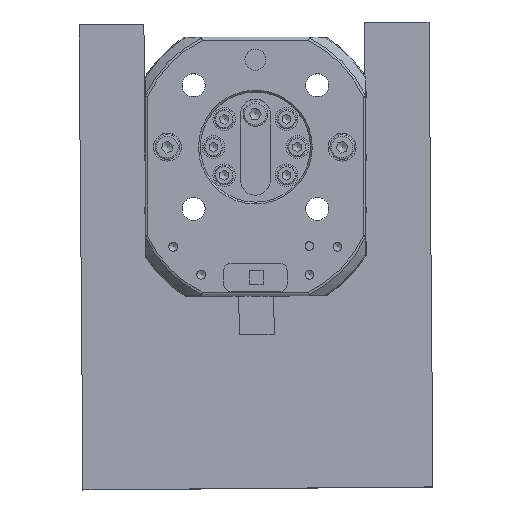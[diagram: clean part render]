
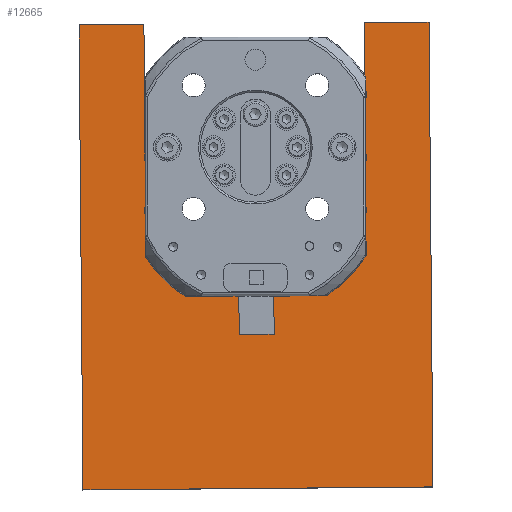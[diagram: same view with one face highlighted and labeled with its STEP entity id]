
A CAD part, top view. The second image highlights one B-rep face of the part: STEP entity #12665.
In plain terms, the highlighted planar face has unit normal (0, 0, 1).
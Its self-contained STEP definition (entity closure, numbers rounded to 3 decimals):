
#1500=LINE('',#26091,#2340);
#1504=LINE('',#26099,#2344);
#1507=LINE('',#26104,#2347);
#1508=LINE('',#26108,#2348);
#1512=LINE('',#26116,#2352);
#1515=LINE('',#26122,#2355);
#1519=LINE('',#26137,#2359);
#1522=LINE('',#26143,#2362);
#1525=LINE('',#26149,#2365);
#1528=LINE('',#26154,#2368);
#1530=LINE('',#26159,#2370);
#1531=LINE('',#26160,#2371);
#2340=VECTOR('',#16474,10.);
#2344=VECTOR('',#16478,10.);
#2347=VECTOR('',#16483,10.);
#2348=VECTOR('',#16486,10.);
#2352=VECTOR('',#16492,10.);
#2355=VECTOR('',#16497,10.);
#2359=VECTOR('',#16515,10.);
#2362=VECTOR('',#16520,10.);
#2365=VECTOR('',#16525,10.);
#2368=VECTOR('',#16530,10.);
#2370=VECTOR('',#16536,10.);
#2371=VECTOR('',#16537,10.);
#3329=FACE_OUTER_BOUND('',#4122,.T.);
#4122=EDGE_LOOP('',(#11035,#11036,#11037,#11038,#11039,#11040,#11041,#11042,
#11043,#11044,#11045,#11046,#11047,#11048));
#4600=CIRCLE('',#13698,37.5);
#4602=CIRCLE('',#13701,37.5);
#5775=VERTEX_POINT('',#26088);
#5776=VERTEX_POINT('',#26090);
#5779=VERTEX_POINT('',#26096);
#5780=VERTEX_POINT('',#26098);
#5781=VERTEX_POINT('',#26102);
#5782=VERTEX_POINT('',#26106);
#5783=VERTEX_POINT('',#26107);
#5786=VERTEX_POINT('',#26115);
#5788=VERTEX_POINT('',#26121);
#5790=VERTEX_POINT('',#26130);
#5792=VERTEX_POINT('',#26136);
#5794=VERTEX_POINT('',#26142);
#5796=VERTEX_POINT('',#26148);
#5798=VERTEX_POINT('',#26158);
#7516=EDGE_CURVE('',#5775,#5776,#1500,.T.);
#7520=EDGE_CURVE('',#5779,#5780,#1504,.T.);
#7523=EDGE_CURVE('',#5775,#5781,#1507,.T.);
#7524=EDGE_CURVE('',#5782,#5783,#1508,.T.);
#7528=EDGE_CURVE('',#5786,#5782,#1512,.T.);
#7531=EDGE_CURVE('',#5788,#5786,#1515,.T.);
#7534=EDGE_CURVE('',#5776,#5788,#4600,.T.);
#7536=EDGE_CURVE('',#5790,#5779,#4602,.T.);
#7539=EDGE_CURVE('',#5792,#5790,#1519,.T.);
#7542=EDGE_CURVE('',#5794,#5792,#1522,.T.);
#7545=EDGE_CURVE('',#5796,#5794,#1525,.T.);
#7548=EDGE_CURVE('',#5783,#5796,#1528,.T.);
#7550=EDGE_CURVE('',#5798,#5780,#1530,.T.);
#7551=EDGE_CURVE('',#5781,#5798,#1531,.T.);
#11035=ORIENTED_EDGE('',*,*,#7550,.T.);
#11036=ORIENTED_EDGE('',*,*,#7520,.F.);
#11037=ORIENTED_EDGE('',*,*,#7536,.F.);
#11038=ORIENTED_EDGE('',*,*,#7539,.F.);
#11039=ORIENTED_EDGE('',*,*,#7542,.F.);
#11040=ORIENTED_EDGE('',*,*,#7545,.F.);
#11041=ORIENTED_EDGE('',*,*,#7548,.F.);
#11042=ORIENTED_EDGE('',*,*,#7524,.F.);
#11043=ORIENTED_EDGE('',*,*,#7528,.F.);
#11044=ORIENTED_EDGE('',*,*,#7531,.F.);
#11045=ORIENTED_EDGE('',*,*,#7534,.F.);
#11046=ORIENTED_EDGE('',*,*,#7516,.F.);
#11047=ORIENTED_EDGE('',*,*,#7523,.T.);
#11048=ORIENTED_EDGE('',*,*,#7551,.T.);
#11364=PLANE('',#13708);
#12665=ADVANCED_FACE('',(#3329),#11364,.T.);
#13698=AXIS2_PLACEMENT_3D('',#26127,#16502,#16503);
#13701=AXIS2_PLACEMENT_3D('',#26131,#16508,#16509);
#13708=AXIS2_PLACEMENT_3D('',#26157,#16534,#16535);
#16474=DIRECTION('',(1.,0.008,0.));
#16478=DIRECTION('',(1.,0.008,0.));
#16483=DIRECTION('',(0.008,-1.,0.));
#16486=DIRECTION('',(0.008,-1.,0.));
#16492=DIRECTION('',(1.,0.008,0.));
#16497=DIRECTION('',(-0.008,1.,0.));
#16502=DIRECTION('center_axis',(0.,0.,1.));
#16503=DIRECTION('ref_axis',(-0.845,0.535,0.));
#16508=DIRECTION('center_axis',(0.,0.,1.));
#16509=DIRECTION('ref_axis',(0.535,0.845,0.));
#16515=DIRECTION('',(0.008,-1.,0.));
#16520=DIRECTION('',(1.,0.008,0.));
#16525=DIRECTION('',(-0.008,1.,0.));
#16530=DIRECTION('',(-1.,-0.008,0.));
#16534=DIRECTION('center_axis',(0.,0.,1.));
#16535=DIRECTION('ref_axis',(1.,0.008,0.));
#16536=DIRECTION('',(-0.008,1.,0.));
#16537=DIRECTION('',(-1.,-0.008,0.));
#26088=CARTESIAN_POINT('',(5.267,-42.456,0.));
#26090=CARTESIAN_POINT('',(20.614,-42.326,0.));
#26091=CARTESIAN_POINT('',(-20.079,-42.672,0.));
#26096=CARTESIAN_POINT('',(-20.079,-42.672,0.));
#26098=CARTESIAN_POINT('',(-4.732,-42.541,0.));
#26099=CARTESIAN_POINT('',(-20.079,-42.672,0.));
#26102=CARTESIAN_POINT('',(5.361,-53.456,0.));
#26104=CARTESIAN_POINT('',(5.361,-53.456,0.));
#26106=CARTESIAN_POINT('',(49.665,35.818,0.));
#26107=CARTESIAN_POINT('',(50.794,-97.178,0.));
#26108=CARTESIAN_POINT('',(49.665,35.818,0.));
#26115=CARTESIAN_POINT('',(31.105,35.66,0.));
#26116=CARTESIAN_POINT('',(31.105,35.66,0.));
#26121=CARTESIAN_POINT('',(31.672,-31.079,0.));
#26122=CARTESIAN_POINT('',(31.672,-31.079,0.));
#26127=CARTESIAN_POINT('Origin',(0.,-11.,0.));
#26130=CARTESIAN_POINT('',(-31.326,-31.614,0.));
#26131=CARTESIAN_POINT('Origin',(0.,-11.,0.));
#26136=CARTESIAN_POINT('',(-31.893,35.125,0.));
#26137=CARTESIAN_POINT('',(-31.893,35.125,0.));
#26142=CARTESIAN_POINT('',(-50.453,34.967,0.));
#26143=CARTESIAN_POINT('',(-50.453,34.967,0.));
#26148=CARTESIAN_POINT('',(-49.323,-98.028,0.));
#26149=CARTESIAN_POINT('',(-49.323,-98.028,0.));
#26154=CARTESIAN_POINT('',(50.794,-97.178,0.));
#26157=CARTESIAN_POINT('Origin',(0.176,-31.736,0.));
#26158=CARTESIAN_POINT('',(-4.639,-53.541,0.));
#26159=CARTESIAN_POINT('',(-4.732,-42.541,0.));
#26160=CARTESIAN_POINT('',(-4.639,-53.541,0.));
